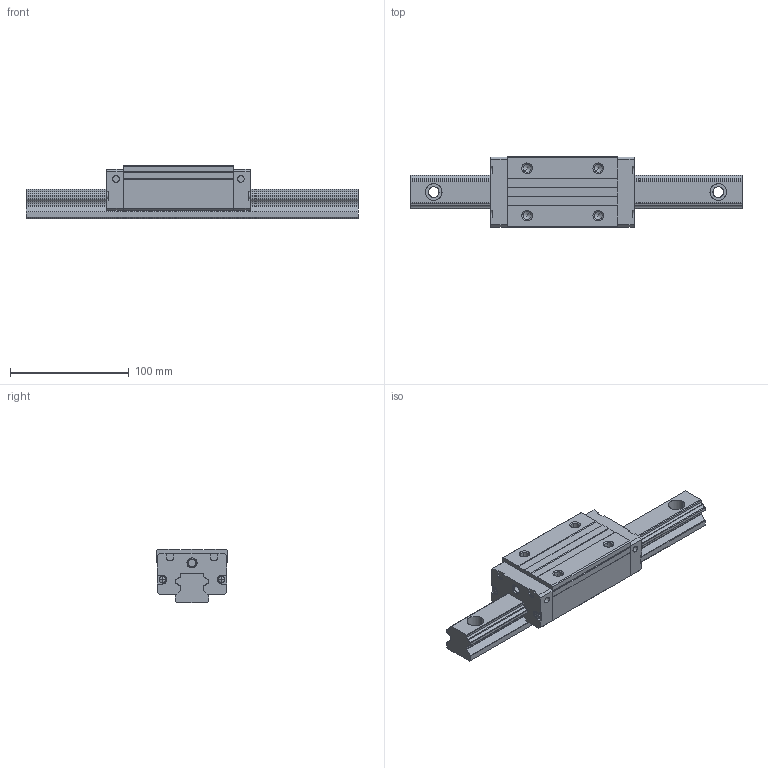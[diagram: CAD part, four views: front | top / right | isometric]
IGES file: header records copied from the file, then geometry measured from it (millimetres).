
Start section: START RECORD GO HERE.
Global section: file name: SBG30_SLL.igs; native system: IBM CATIA IGES - CATIA Version 5 Release 16 ; preprocessor: CATIA Version 5 Release 16 ; author: mycom; organization: RD03; date: 20070318.194234; units: millimetre
Bounding box: 280 x 60 x 45 mm (x, y, z)
Surface area: 75879.7 mm2 (no closed solid volume)
Topology: 0 solids, 0 shells, 315 faces, 1674 edges, 1662 vertices
Faces by surface type: revolution 160, plane 135, extrusion 20
